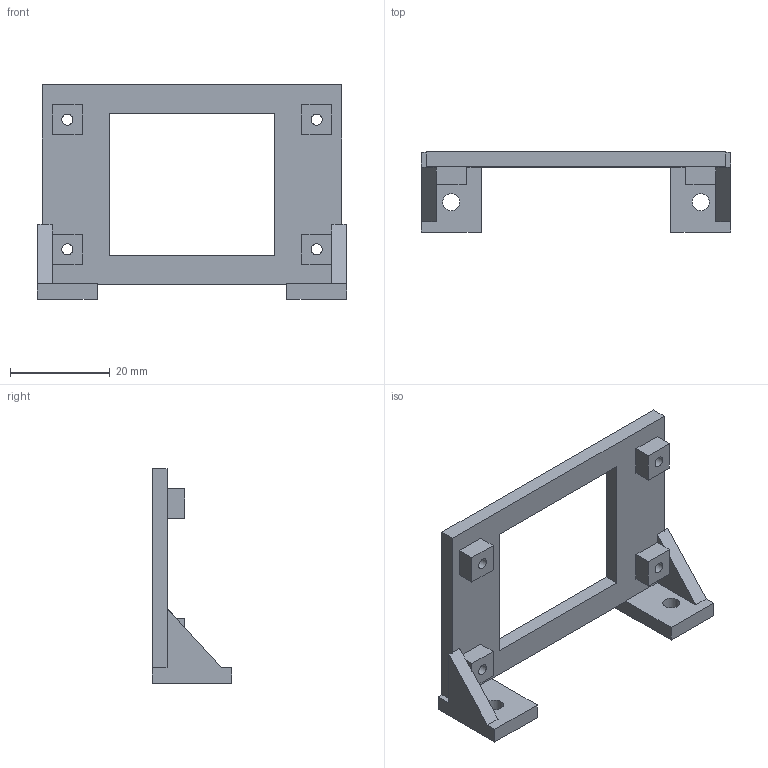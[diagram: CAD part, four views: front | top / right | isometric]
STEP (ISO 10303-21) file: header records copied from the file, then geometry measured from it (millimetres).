
FILE_DESCRIPTION(('Open CASCADE Model'),'2;1');
FILE_NAME('Open CASCADE Shape Model','2026-10-26T16:15:20',('Author'),( 'Open CASCADE'),'Open CASCADE STEP processor 7.8','Open CASCADE 7.8' ,'Unknown');
FILE_SCHEMA(('AUTOMOTIVE_DESIGN { 1 0 10303 214 1 1 1 1 }'));
Length unit declared in the file: millimetre
Products named in the file (1): Open CASCADE STEP translator 7.8 13
Bounding box: 62 x 16 x 43 mm (x, y, z)
Volume: 6274 mm3; surface area: 5554.1 mm2
Topology: 1 solids, 1 shells, 56 faces, 150 edges, 98 vertices
Faces by surface type: plane 50, cylinder 6
Full cylindrical faces by diameter (mm): 2.2 x4, 3.4 x2
Entity records: 3666 total; most frequent: CARTESIAN_POINT 645, DIRECTION 536, LINE 386, VECTOR 386, ORIENTED_EDGE 300, PCURVE 300, DEFINITIONAL_REPRESENTATION 300, EDGE_CURVE 150
